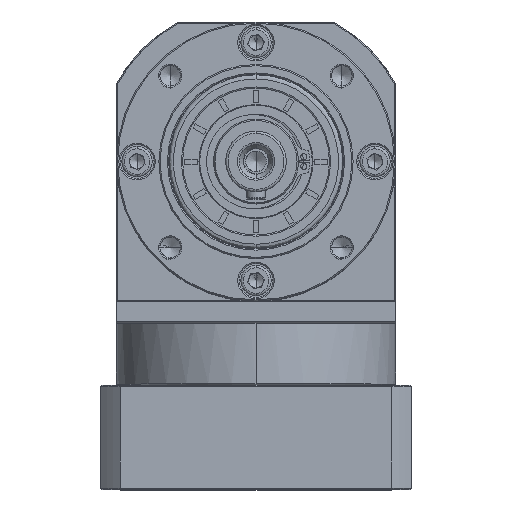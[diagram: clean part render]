
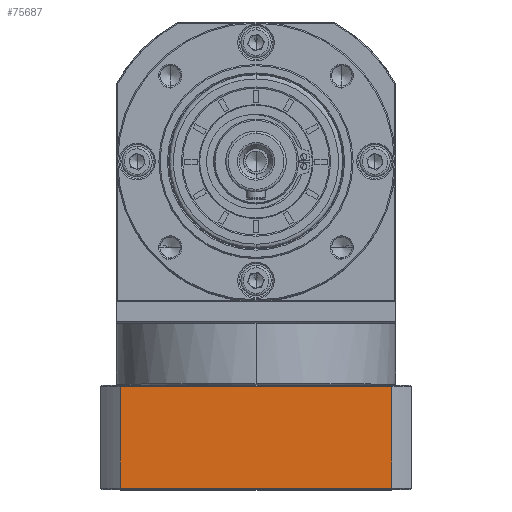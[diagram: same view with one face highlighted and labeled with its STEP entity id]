
A CAD part, top view. The second image highlights one B-rep face of the part: STEP entity #75687.
In plain terms, the highlighted planar face has unit normal (0, 0, 1).
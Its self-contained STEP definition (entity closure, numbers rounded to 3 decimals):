
#1868 = LINE ( 'NONE', #60218, #72102 ) ;
#5923 = VERTEX_POINT ( 'NONE', #145879 ) ;
#8745 = VECTOR ( 'NONE', #134806, 1000. ) ;
#8857 = DIRECTION ( 'NONE',  ( 1., 0., 0. ) ) ;
#30916 = DIRECTION ( 'NONE',  ( 0., 0., -1. ) ) ;
#41065 = VECTOR ( 'NONE', #129895, 1000. ) ;
#44292 = EDGE_CURVE ( 'NONE', #5923, #96435, #1868, .T. ) ;
#46409 = ORIENTED_EDGE ( 'NONE', *, *, #138338, .F. ) ;
#47707 = LINE ( 'NONE', #176976, #120205 ) ;
#54023 = ORIENTED_EDGE ( 'NONE', *, *, #71257, .F. ) ;
#59502 = CARTESIAN_POINT ( 'NONE',  ( -282.238, -166.676, 50.93 ) ) ;
#60218 = CARTESIAN_POINT ( 'NONE',  ( -162.3, 128.238, 50.93 ) ) ;
#65578 = EDGE_LOOP ( 'NONE', ( #165786, #54023, #46409, #138049 ) ) ;
#71257 = EDGE_CURVE ( 'NONE', #115149, #5923, #47707, .T. ) ;
#72102 = VECTOR ( 'NONE', #173044, 1000. ) ;
#75687 = ADVANCED_FACE ( 'NONE', ( #115368 ), #100838, .F. ) ;
#87981 = DIRECTION ( 'NONE',  ( -1., 0., 0. ) ) ;
#91883 = CARTESIAN_POINT ( 'NONE',  ( -274.175, -167.176, 50.93 ) ) ;
#96435 = VERTEX_POINT ( 'NONE', #135499 ) ;
#99628 = CARTESIAN_POINT ( 'NONE',  ( -282.238, -167.176, 50.93 ) ) ;
#100838 = PLANE ( 'NONE',  #115745 ) ;
#102825 = VERTEX_POINT ( 'NONE', #108711 ) ;
#108711 = CARTESIAN_POINT ( 'NONE',  ( -274.175, -166.676, 50.93 ) ) ;
#115149 = VERTEX_POINT ( 'NONE', #148144 ) ;
#115368 = FACE_OUTER_BOUND ( 'NONE', #65578, .T. ) ;
#115745 = AXIS2_PLACEMENT_3D ( 'NONE', #99628, #30916, #87981 ) ;
#120205 = VECTOR ( 'NONE', #8857, 1000. ) ;
#125100 = EDGE_CURVE ( 'NONE', #96435, #102825, #153025, .T. ) ;
#129895 = DIRECTION ( 'NONE',  ( -1., 0., 0. ) ) ;
#134806 = DIRECTION ( 'NONE',  ( 0., 1., 0. ) ) ;
#135499 = CARTESIAN_POINT ( 'NONE',  ( -162.3, -166.676, 50.93 ) ) ;
#138049 = ORIENTED_EDGE ( 'NONE', *, *, #125100, .F. ) ;
#138338 = EDGE_CURVE ( 'NONE', #102825, #115149, #182123, .T. ) ;
#145879 = CARTESIAN_POINT ( 'NONE',  ( -162.3, -124.676, 50.93 ) ) ;
#148144 = CARTESIAN_POINT ( 'NONE',  ( -274.175, -124.676, 50.93 ) ) ;
#153025 = LINE ( 'NONE', #59502, #41065 ) ;
#165786 = ORIENTED_EDGE ( 'NONE', *, *, #44292, .F. ) ;
#173044 = DIRECTION ( 'NONE',  ( 0., -1., 0. ) ) ;
#176976 = CARTESIAN_POINT ( 'NONE',  ( -282.238, -124.676, 50.93 ) ) ;
#182123 = LINE ( 'NONE', #91883, #8745 ) ;
